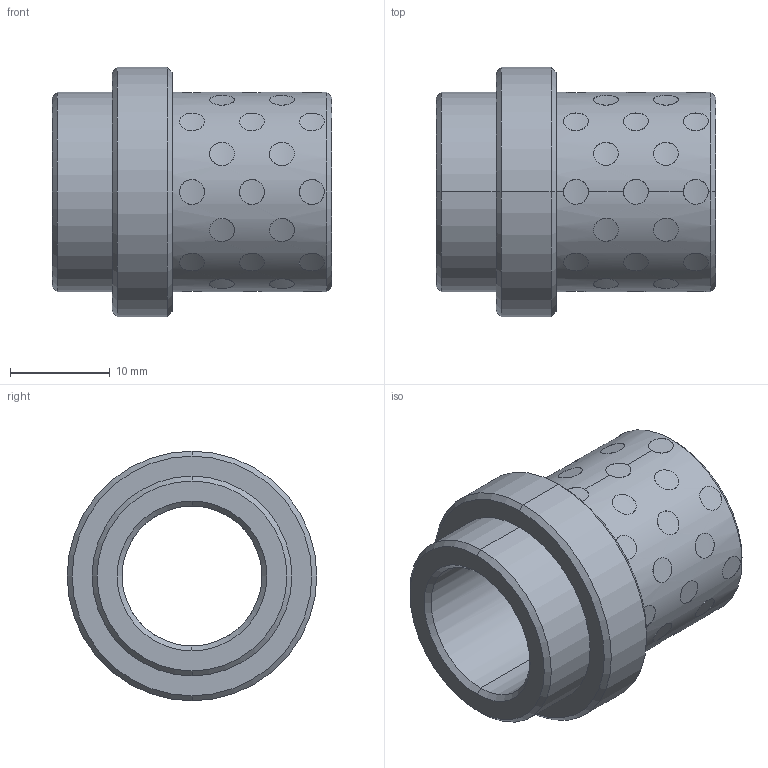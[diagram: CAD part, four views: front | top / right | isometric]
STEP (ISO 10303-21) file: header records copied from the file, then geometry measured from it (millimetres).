
FILE_DESCRIPTION((''),'2;1');
FILE_NAME('G31214022','2017-12-30T',('MANU'),(''),'PRO/ENGINEER BY PARAMETRIC TECHNOLOGY CORPORATION, 2012130','PRO/ENGINEER BY PARAMETRIC TECHNOLOGY CORPORATION, 2012130','');
FILE_SCHEMA(('CONFIG_CONTROL_DESIGN'));
Length unit declared in the file: millimetre
Products named in the file (1): G31214022
Bounding box: 28 x 25 x 25 mm (x, y, z)
Volume: 5493.3 mm3; surface area: 5534.8 mm2
Topology: 41 solids, 41 shells, 264 faces, 564 edges, 372 vertices
Faces by surface type: cylinder 248, cone 12, plane 4
Entity records: 11320 total; most frequent: CARTESIAN_POINT 6106, ORIENTED_EDGE 1128, DIRECTION 776, EDGE_CURVE 564, VERTEX_POINT 372, B_SPLINE_CURVE_WITH_KNOTS 344, EDGE_LOOP 336, AXIS2_PLACEMENT_3D 292
